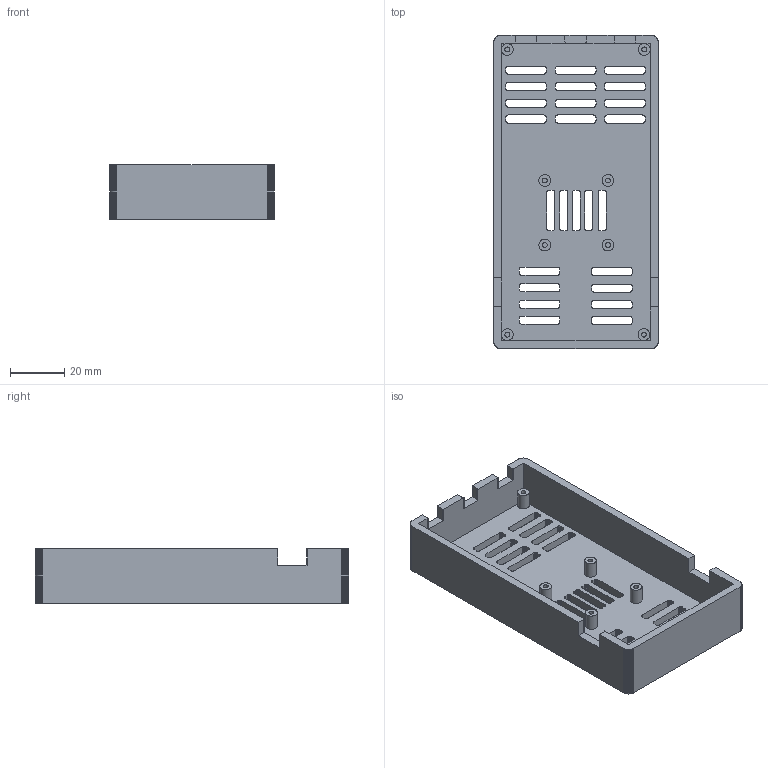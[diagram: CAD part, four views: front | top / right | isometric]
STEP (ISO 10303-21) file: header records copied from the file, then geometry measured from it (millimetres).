
FILE_DESCRIPTION(('Designed by EasyEDA Pro'),'2;1');
FILE_NAME('Open CASCADE Shape Model','2026-07-06T04:01:30',('Author'),( 'Open CASCADE'),'Open CASCADE STEP processor 7.8','Open CASCADE 7.8' ,'Unknown');
FILE_SCHEMA(('AUTOMOTIVE_DESIGN { 1 0 10303 214 1 1 1 1 }'));
Products named in the file (1): Open CASCADE STEP translator 7.8 1
Bounding box: 60.56 x 115.33 x 20 mm (x, y, z)
Volume: 34688.5 mm3; surface area: 27355.1 mm2
Topology: 1 solids, 1 shells, 2622 faces, 7824 edges, 5216 vertices
Faces by surface type: bspline 2622
Entity records: 165117 total; most frequent: CARTESIAN_POINT 63303, B_SPLINE_CURVE_WITH_KNOTS 23396, ORIENTED_EDGE 15648, PCURVE 15648, DEFINITIONAL_REPRESENTATION 15648, EDGE_CURVE 7824, SURFACE_CURVE 7812, VERTEX_POINT 5216
